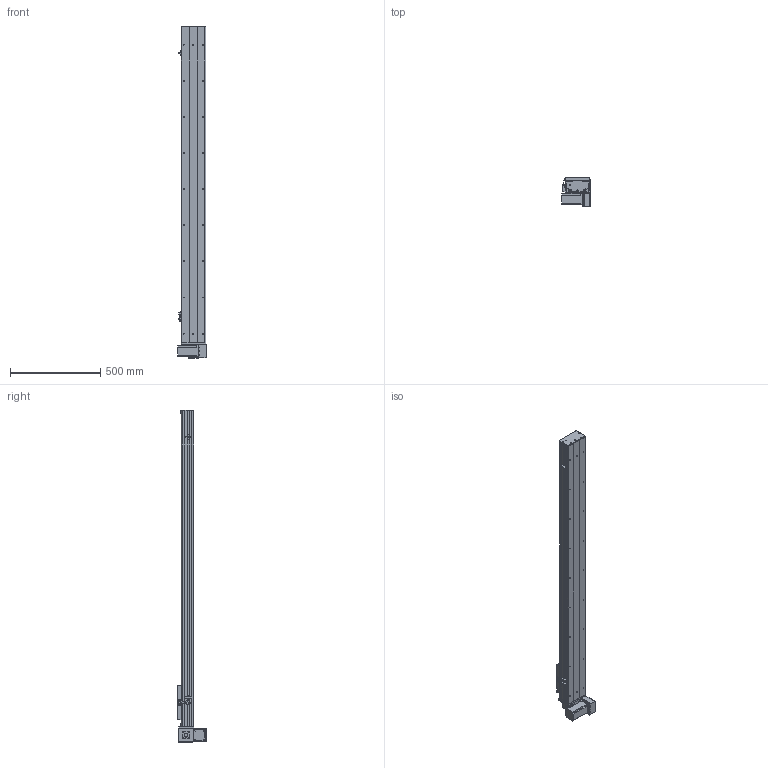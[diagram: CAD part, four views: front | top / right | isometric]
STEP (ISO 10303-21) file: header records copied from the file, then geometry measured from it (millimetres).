
FILE_DESCRIPTION (( 'STEP AP203' ), '1' );
FILE_NAME ('Y135CB-D90-S1450-BM-P400W.STEP', '2020-02-19T01:28:15', ( '微软用户' ), ( '微软中国' ), 'SwSTEP 2.0', 'SolidWorks 2017', '' );
FILE_SCHEMA (( 'CONFIG_CONTROL_DESIGN' ));
Length unit declared in the file: millimetre
Products named in the file (18): C-雄赽釱--; 0B-萇儂楊擘啣; Y10B--々湍喘謫眊--666; san松下电机400不带刹车----; 00B-俋欶BM--; 5CB --掛极耜裔啣-; Y10B-耜蚾蟀諉啣----; C-詩湍揤踡え-陔; Y135CB-耜裔; Y135CB-D90-S1450-BM-P400W; 135CB--詩湍-CE; 135CB---遴掛极.-; Y100-135俋离換覜ん--; 35CB---喘謫眊楊擘啣; Y135C-陔俋离換覜結え-; 0B-埴倛裔啣; 5C--俋欶; 0B-源倛裔啣
Assembly tree (21 placements, depth 2):
  Y135CB-D90-S1450-BM-P400W
    Y135CB-耜裔
    135CB---遴掛极.-
    35CB---喘謫眊楊擘啣
    0B-埴倛裔啣
    0B-源倛裔啣
    0B-萇儂楊擘啣
    san松下电机400不带刹车----
    5CB --掛极耜裔啣-  x2
    C-詩湍揤踡え-陔  x2
    135CB--詩湍-CE
    Y100-135俋离換覜ん--  x3
    Y135C-陔俋离換覜結え-
    5C--俋欶
    C-雄赽釱--
    Y10B--々湍喘謫眊--666
    00B-俋欶BM--
    Y10B-耜蚾蟀諉啣----
Bounding box: 157 x 163.3 x 1838 mm (x, y, z)
Volume: 5555119.7 mm3; surface area: 2185329.1 mm2
Topology: 21 solids, 21 shells, 953 faces, 2563 edges, 1698 vertices
Faces by surface type: cylinder 481, plane 456, cone 16
Entity records: 29753 total; most frequent: DIRECTION 4943, CARTESIAN_POINT 4900, ORIENTED_EDGE 4602, EDGE_CURVE 2301, AXIS2_PLACEMENT_3D 1805, VERTEX_POINT 1526, VECTOR 1333, LINE 1333
